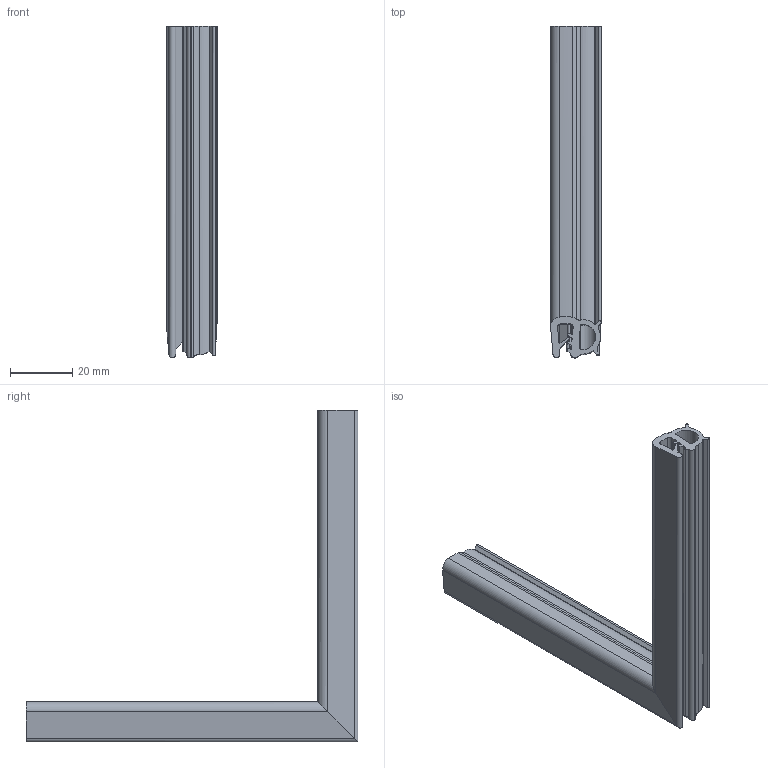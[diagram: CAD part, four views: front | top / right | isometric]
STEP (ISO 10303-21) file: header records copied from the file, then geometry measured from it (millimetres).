
FILE_DESCRIPTION( ( 'STEP AP203' ), '1' );
FILE_NAME( 'C:/Temp/Ganter_Step_05_03_2020/data/3_3/gn2181/Edge protection seal profile corner GN 2181-EPDM-13-D-630.stp', '2020-03-12T12:06:27', ( 'License CC BY-ND 4.0' ), ( 'CADENAS' ), ' ', 'PARTsolutions', ' ' );
FILE_SCHEMA( ( 'CONFIG_CONTROL_DESIGN' ) );
Length unit declared in the file: millimetre
Products named in the file (3): Edge protection seal profile corner GN 2181-EPDM-13-D-630; _Edge protection seal profile corner GN 2181-EPDM-13-D-630_1; _Edge protection seal profile corner GN 2181-EPDM-13-D-630_2
Assembly tree (2 placements, depth 2):
  Edge protection seal profile corner GN 2181-EPDM-13-D-630
    _Edge protection seal profile corner GN 2181-EPDM-13-D-630_1
    _Edge protection seal profile corner GN 2181-EPDM-13-D-630_2
Bounding box: 16.29 x 106.5 x 106.5 mm (x, y, z)
Volume: 21208.5 mm3; surface area: 23169.6 mm2
Topology: 2 solids, 2 shells, 114 faces, 330 edges, 220 vertices
Faces by surface type: cylinder 68, plane 46
Entity records: 3926 total; most frequent: DIRECTION 700, CARTESIAN_POINT 667, ORIENTED_EDGE 660, EDGE_CURVE 330, AXIS2_PLACEMENT_3D 253, VERTEX_POINT 220, LINE 194, VECTOR 194
